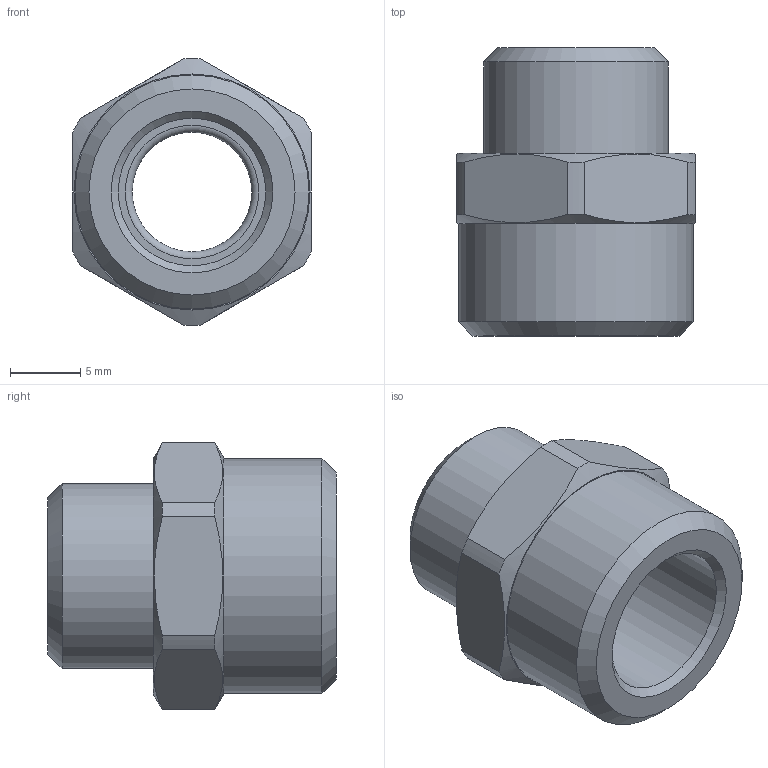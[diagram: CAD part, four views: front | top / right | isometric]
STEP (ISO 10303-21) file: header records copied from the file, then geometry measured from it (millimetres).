
FILE_DESCRIPTION(('STEP AP203'), '1');
FILE_NAME('覆.753137.026 - VTr.580.N.0302 侳瀅. G3-8xG1-4', '2024-07-03T10:09:43', ('Boss'), (''), 'C3D Converter', 'C3D Toolkit', '');
FILE_SCHEMA(('CONFIG_CONTROL_DESIGN'));
Length unit declared in the file: millimetre
Products named in the file (1): ВР.753137.026
Bounding box: 17 x 20.5 x 19 mm (x, y, z)
Volume: 2437.5 mm3; surface area: 1916.4 mm2
Topology: 1 solids, 1 shells, 28 faces, 64 edges, 41 vertices
Faces by surface type: plane 11, cylinder 10, cone 6, torus 1
Full cylindrical faces by diameter (mm): 8.5 x1, 10.5 x1, 13.157 x1, 16.662 x1
Entity records: 1195 total; most frequent: CARTESIAN_POINT 571, DIRECTION 124, ORIENTED_EDGE 106, AXIS2_PLACEMENT_3D 56, EDGE_CURVE 53, EDGE_LOOP 44, VERTEX_POINT 41, ADVANCED_FACE 28
